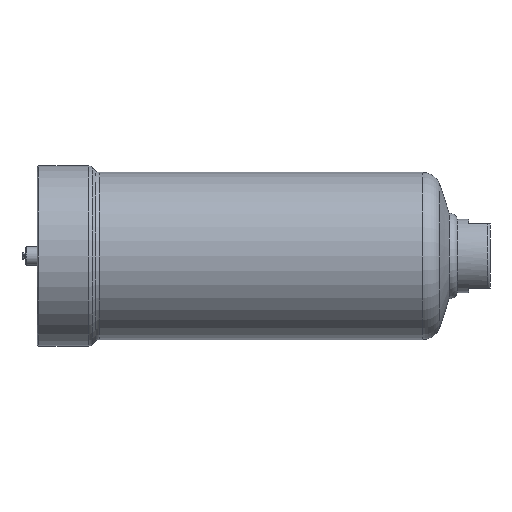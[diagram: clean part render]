
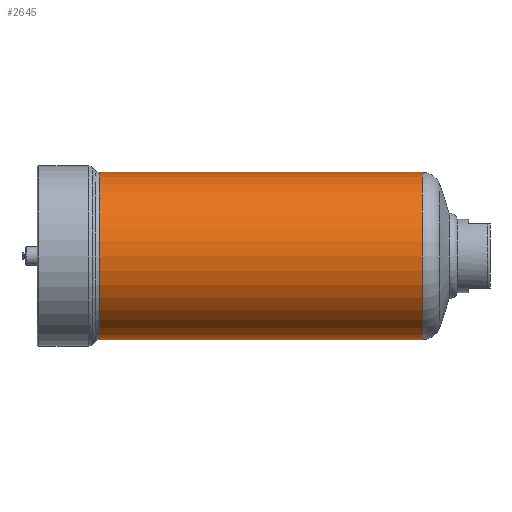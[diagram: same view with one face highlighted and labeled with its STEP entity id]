
A CAD part, left-side view. The second image highlights one B-rep face of the part: STEP entity #2645.
In plain terms, the highlighted cylindrical face has radius 78 mm (diameter 156 mm), a partial arc.
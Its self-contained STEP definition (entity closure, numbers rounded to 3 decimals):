
#206 = DIRECTION ( 'NONE',  ( 0., 0., -1. ) ) ;
#335 = CARTESIAN_POINT ( 'NONE',  ( 0., 364.479, 0. ) ) ;
#415 = CARTESIAN_POINT ( 'NONE',  ( 0., 364.479, 78. ) ) ;
#473 = VERTEX_POINT ( 'NONE', #7230 ) ;
#518 = ORIENTED_EDGE ( 'NONE', *, *, #767, .T. ) ;
#767 = EDGE_CURVE ( 'NONE', #4205, #5100, #1625, .T. ) ;
#1050 = FACE_OUTER_BOUND ( 'NONE', #7292, .T. ) ;
#1094 = DIRECTION ( 'NONE',  ( 0., -1., 0. ) ) ;
#1204 = ORIENTED_EDGE ( 'NONE', *, *, #3503, .F. ) ;
#1534 = AXIS2_PLACEMENT_3D ( 'NONE', #335, #5176, #7525 ) ;
#1552 = CARTESIAN_POINT ( 'NONE',  ( 0., 364.479, -78. ) ) ;
#1625 = LINE ( 'NONE', #2217, #3520 ) ;
#1681 = EDGE_CURVE ( 'NONE', #473, #5100, #6729, .T. ) ;
#1707 = DIRECTION ( 'NONE',  ( 0., 0., -1. ) ) ;
#2026 = ORIENTED_EDGE ( 'NONE', *, *, #6789, .T. ) ;
#2217 = CARTESIAN_POINT ( 'NONE',  ( 0., 35., -78. ) ) ;
#2242 = ORIENTED_EDGE ( 'NONE', *, *, #1681, .F. ) ;
#2518 = VERTEX_POINT ( 'NONE', #415 ) ;
#2554 = DIRECTION ( 'NONE',  ( 0., -1., 0. ) ) ;
#2645 = ADVANCED_FACE ( 'NONE', ( #1050 ), #4755, .T. ) ;
#2944 = DIRECTION ( 'NONE',  ( 0., -1., 0. ) ) ;
#3423 = DIRECTION ( 'NONE',  ( 0., -1., 0. ) ) ;
#3503 = EDGE_CURVE ( 'NONE', #2518, #473, #4061, .T. ) ;
#3520 = VECTOR ( 'NONE', #2944, 1000. ) ;
#3907 = CIRCLE ( 'NONE', #1534, 78. ) ;
#4061 = LINE ( 'NONE', #6443, #6719 ) ;
#4205 = VERTEX_POINT ( 'NONE', #1552 ) ;
#4755 = CYLINDRICAL_SURFACE ( 'NONE', #6114, 78. ) ;
#5100 = VERTEX_POINT ( 'NONE', #6128 ) ;
#5176 = DIRECTION ( 'NONE',  ( 0., -1., 0. ) ) ;
#5214 = CARTESIAN_POINT ( 'NONE',  ( 0., 35., 0. ) ) ;
#6114 = AXIS2_PLACEMENT_3D ( 'NONE', #5214, #3423, #1707 ) ;
#6128 = CARTESIAN_POINT ( 'NONE',  ( 0., 63.33, -78. ) ) ;
#6349 = AXIS2_PLACEMENT_3D ( 'NONE', #6810, #2554, #206 ) ;
#6443 = CARTESIAN_POINT ( 'NONE',  ( 0., 35., 78. ) ) ;
#6719 = VECTOR ( 'NONE', #1094, 1000. ) ;
#6729 = CIRCLE ( 'NONE', #6349, 78. ) ;
#6789 = EDGE_CURVE ( 'NONE', #2518, #4205, #3907, .T. ) ;
#6810 = CARTESIAN_POINT ( 'NONE',  ( 0., 63.33, 0. ) ) ;
#7230 = CARTESIAN_POINT ( 'NONE',  ( 0., 63.33, 78. ) ) ;
#7292 = EDGE_LOOP ( 'NONE', ( #1204, #2026, #518, #2242 ) ) ;
#7525 = DIRECTION ( 'NONE',  ( 0., 0., 1. ) ) ;
